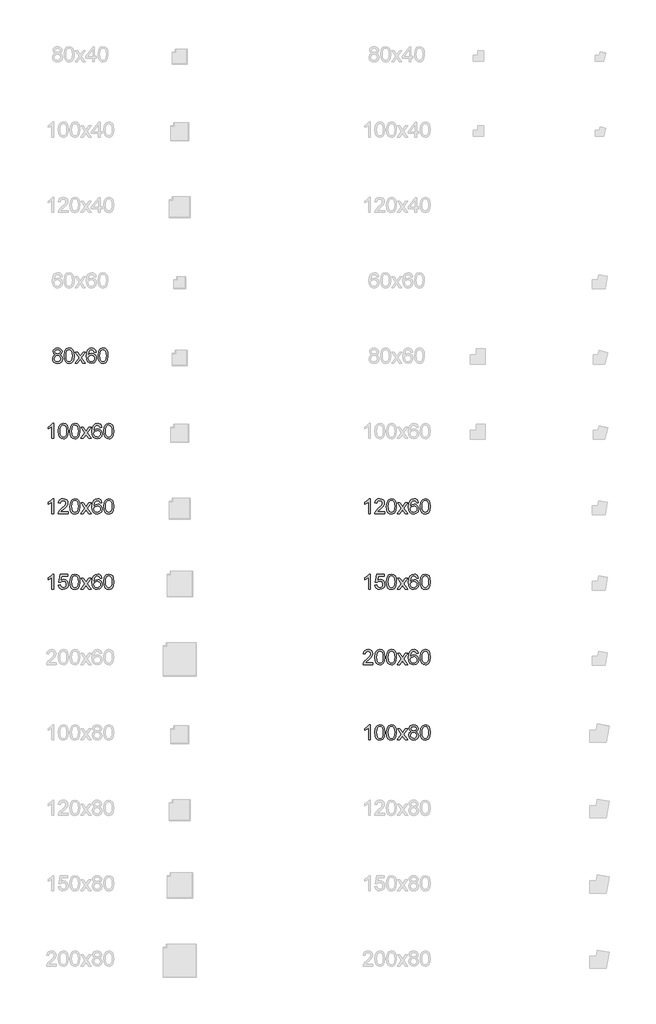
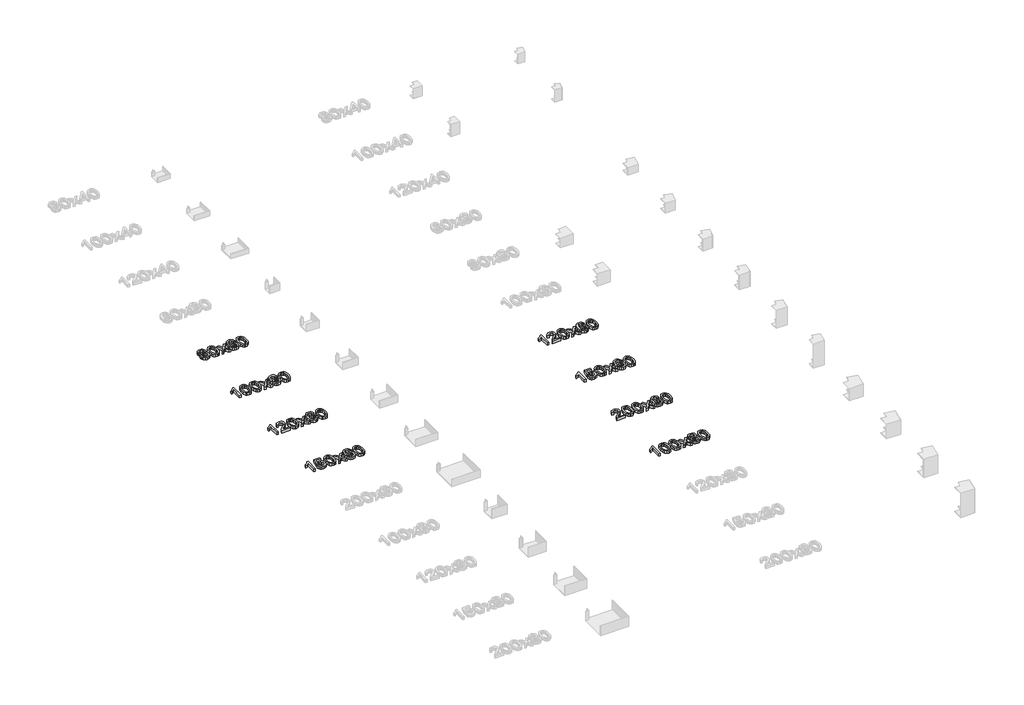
# One storey, part 14 of 28: 8 proxies.
"""IFC4 building model written with IfcOpenShell, lengths in millimetres."""

from ifc_helpers import new_model, si_unit, origin, origin_with_axes, place, context, project, spatial, polyline, outline, extrude, element, save

model = new_model("IFC4")

# Units and contexts
model_context = context("Model", 3, world=origin())
ifc_project = project(units=[si_unit("LENGTHUNIT", "METRE", prefix="MILLI")], contexts=[model_context])

# Site, building, storey
site = spatial("IfcSite", under=ifc_project)
building = spatial("IfcBuilding", under=site)
storey = spatial("IfcBuildingStorey", under=building, Name="Этаж 01", Elevation=0.0)

# Proxies
placement = place(None, origin())
element("IfcBuildingElementProxy", 1, Name="100 мм Arial", ObjectType="100 мм Arial", at=placement, inside=storey, context=model_context, shape_type="SweptSolid", body=[
    extrude(outline(polyline([(12977.1955345, -408.0058037), (12965.7544045, -400.2067054), (12962.0387963, -388.0665996), (12964.0621473, -378.2502817), (12970.1322002, -370.1384837), (12979.5683734, -364.6938302), (12991.6900851, -362.8789457), (13003.8853733, -364.7367497), (13013.4441738, -370.310162), (13019.6245913, -378.5507186), (13021.6847305, -388.4099561), (13018.0181733, -400.2434936), (13006.8958743, -408.0058037), (13020.2499907, -417.8527785), (13024.8239902, -434.1008999), (13022.5553845, -446.1061157), (13015.7495676, -456.0266668), (13005.2404053, -462.6853309), (12991.8617634, -464.9048856), (12978.4831215, -462.6761339), (12967.9739592, -455.9898786), (12961.1681423, -445.9742913), (12958.8995366, -433.7575434), (12963.6574771, -417.1292772), (12977.1955345, -408.0058037)]), holes=[polyline([(12974.5958351, -388.4344816), (12979.0472072, -398.2937191), (12992.0089162, -402.1196918), (13004.7131078, -398.3182445), (13009.1276917, -388.9985673), (13004.565955, -379.3477963), (12991.8617634, -375.4359844), (12979.1207836, -379.2619572), (12974.5958351, -388.4344816)]), polyline([(12971.4565754, -433.316085), (12973.5535028, -442.7706523), (12980.9724563, -449.8462493), (12991.9598653, -452.3478469), (13000.5069903, -451.0326687), (13006.9203997, -447.0871343), (13012.2669514, -433.7084925), (13006.7487215, -420.0723332), (13000.1881592, -416.0256312), (12991.5429323, -414.6767306), (12983.115369, -416.0072371), (12976.7663389, -419.9987568), (12971.4565754, -433.316085)])]), origin_with_axes(), (0.0, 0.0, 1.0), 20.0),
    extrude(outline(polyline([(13035.8113991, -413.9164411), (13039.5024818, -385.013179), (13050.4653652, -368.3481246), (13068.7736259, -362.8789457), (13083.4398547, -366.1163072), (13093.5688723, -375.4482472), (13099.4549843, -390.3106798), (13101.7358526, -413.9164411), (13098.0815581, -442.6970759), (13087.1554629, -459.3989185), (13078.9241032, -463.5283938), (13068.7736259, -464.9048856), (13055.7260778, -462.5136527), (13045.8177894, -455.3399538), (13038.3129967, -438.349937), (13035.8113991, -413.9164411)]), holes=[polyline([(13048.3684379, -413.8919156), (13049.8399658, -433.6441131), (13054.2545498, -445.0760461), (13060.8273748, -450.5298967), (13068.7736259, -452.3478469), (13076.719877, -450.5237653), (13083.2927019, -445.0515206), (13087.7072859, -433.6134563), (13089.1788139, -413.8919156), (13087.7563368, -394.5842423), (13083.4889057, -383.0634045), (13076.9283434, -377.3428394), (13068.6264731, -375.4359844), (13060.7660611, -377.1159789), (13054.4507535, -382.1559622), (13049.8890168, -394.3941699), (13048.3684379, -413.8919156)])]), origin_with_axes(), (0.0, 0.0, 1.0), 20.0),
    extrude(outline(polyline([(13108.014372, -463.3352558), (13134.8452322, -426.2527507), (13109.5840019, -389.562653), (13124.6916891, -389.562653), (13136.8808459, -407.2209888), (13142.5707541, -415.5596474), (13147.5003728, -408.7415677), (13161.3817868, -389.562653), (13176.489474, -389.562653), (13149.9529195, -426.2527507), (13175.5084554, -463.3352558), (13160.4007681, -463.3352558), (13145.0233007, -441.0416069), (13142.2028721, -436.9703795), (13123.1220593, -463.3352558), (13108.014372, -463.3352558)])), origin_with_axes(), (0.0, 0.0, 1.0), 20.0),
    extrude(outline(polyline([(13247.7114283, -389.562653), (13235.1543895, -391.1322829), (13230.3964491, -380.6599088), (13217.8148848, -375.4359844), (13206.4841194, -378.4771422), (13197.9124689, -389.8937468), (13194.3440135, -412.2732349), (13205.4172616, -402.2545819), (13219.13926, -398.9804321), (13230.7398056, -401.2183809), (13240.4764157, -407.9322273), (13247.0798976, -418.1900036), (13249.2810582, -431.0597421), (13245.1362543, -448.3869841), (13233.7319125, -460.6497172), (13217.2753246, -464.9048856), (13203.0290943, -462.084457), (13191.6830004, -453.6231711), (13184.2609812, -438.6871621), (13181.7869748, -416.4425641), (13184.533827, -391.4327198), (13192.7743837, -374.3323384), (13204.0254414, -365.7422938), (13218.5996998, -362.8789457), (13229.6177655, -364.6509106), (13238.440802, -369.9668054), (13244.6212196, -378.4096972), (13247.7114283, -389.562653)]), holes=[polyline([(13194.3440135, -430.8635384), (13197.2502813, -441.7405827), (13204.9758032, -449.6377828), (13216.2943059, -452.3478469), (13224.5808479, -450.9437639), (13231.0954249, -446.7315151), (13235.3168708, -440.1096392), (13236.7240194, -431.476675), (13235.3352649, -423.1901331), (13231.1690013, -416.8717598), (13224.5440597, -412.8710431), (13215.7792711, -411.5374709), (13200.5857447, -416.8717598), (13195.9044463, -423.0368489), (13194.3440135, -430.8635384)])]), origin_with_axes(), (0.0, 0.0, 1.0), 20.0),
    extrude(outline(polyline([(13260.2684671, -413.9164411), (13263.9595498, -385.013179), (13274.9224332, -368.3481246), (13293.2306938, -362.8789457), (13307.8969227, -366.1163072), (13318.0259403, -375.4482472), (13323.9120522, -390.3106798), (13326.1929206, -413.9164411), (13322.5386261, -442.6970759), (13311.6125309, -459.3989185), (13303.3811712, -463.5283938), (13293.2306938, -464.9048856), (13280.1831458, -462.5136527), (13270.2748573, -455.3399538), (13262.7700646, -438.349937), (13260.2684671, -413.9164411)]), holes=[polyline([(13272.8255058, -413.8919156), (13274.2970338, -433.6441131), (13278.7116178, -445.0760461), (13285.2844428, -450.5298967), (13293.2306938, -452.3478469), (13301.1769449, -450.5237653), (13307.7497699, -445.0515206), (13312.1643539, -433.6134563), (13313.6358818, -413.8919156), (13312.2134048, -394.5842423), (13307.9459737, -383.0634045), (13301.3854114, -377.3428394), (13293.0835411, -375.4359844), (13285.2231291, -377.1159789), (13278.9078215, -382.1559622), (13274.3460848, -394.3941699), (13272.8255058, -413.8919156)])]), origin_with_axes(), (0.0, 0.0, 1.0), 20.0),
])
element("IfcBuildingElementProxy", 2, Name="100 мм Arial", ObjectType="100 мм Arial", at=placement, inside=storey, context=model_context, shape_type="SweptSolid", body=[
    extrude(outline(polyline([(12967.5325008, -1463.3352558), (12954.975462, -1463.3352558), (12954.975462, -1385.0499672), (12943.0806108, -1393.5235158), (12929.8613845, -1399.8633489), (12929.8613845, -1387.9930232), (12948.267747, -1376.2453248), (12959.4390969, -1362.8789457), (12967.5325008, -1362.8789457), (12967.5325008, -1463.3352558)])), origin_with_axes(), (0.0, 0.0, 1.0), 20.0),
    extrude(outline(polyline([(13061.7102916, -1450.778217), (13061.7102916, -1463.3352558), (12995.785838, -1463.3352558), (12997.1347387, -1454.6777662), (13004.7621587, -1441.3481752), (13020.4829826, -1426.7923109), (13042.1634949, -1405.8720882), (13047.5836229, -1391.6473177), (13042.4700632, -1380.1326112), (13029.1159468, -1375.4359844), (13015.1977446, -1380.0222466), (13009.9125066, -1392.7019127), (12997.3554679, -1391.1322829), (13000.3996914, -1378.9860457), (13006.9817134, -1370.1139582), (13016.7581774, -1364.6876988), (13029.3857269, -1362.8789457), (13042.1052469, -1364.8900339), (13051.8633168, -1370.9232986), (13058.0713255, -1379.9364075), (13060.1406617, -1390.8870282), (13057.9088443, -1402.7941421), (13050.4898907, -1415.1059262), (13032.5004611, -1432.3105409), (13018.0549615, -1444.389333), (13012.3895787, -1450.778217), (13061.7102916, -1450.778217)])), origin_with_axes(), (0.0, 0.0, 1.0), 20.0),
    extrude(outline(polyline([(13074.2673303, -1413.9164411), (13077.958413, -1385.013179), (13088.9212965, -1368.3481246), (13107.2295571, -1362.8789457), (13121.895786, -1366.1163072), (13132.0248036, -1375.4482472), (13137.9109155, -1390.3106798), (13140.1917839, -1413.9164411), (13136.5374894, -1442.6970759), (13125.6113941, -1459.3989185), (13117.3800345, -1463.5283938), (13107.2295571, -1464.9048856), (13094.182009, -1462.5136527), (13084.2737206, -1455.3399538), (13076.7689279, -1438.349937), (13074.2673303, -1413.9164411)]), holes=[polyline([(13086.8243691, -1413.8919156), (13088.2958971, -1433.6441131), (13092.710481, -1445.0760461), (13099.283306, -1450.5298967), (13107.2295571, -1452.3478469), (13115.1758082, -1450.5237653), (13121.7486332, -1445.0515206), (13126.1632171, -1433.6134563), (13127.6347451, -1413.8919156), (13126.212268, -1394.5842423), (13121.9448369, -1383.0634045), (13115.3842746, -1377.3428394), (13107.0824043, -1375.4359844), (13099.2219923, -1377.1159789), (13092.9066847, -1382.1559622), (13088.344948, -1394.3941699), (13086.8243691, -1413.8919156)])]), origin_with_axes(), (0.0, 0.0, 1.0), 20.0),
    extrude(outline(polyline([(13146.4703032, -1463.3352558), (13173.3011634, -1426.2527507), (13148.0399331, -1389.562653), (13163.1476204, -1389.562653), (13175.3367771, -1407.2209888), (13181.0266853, -1415.5596474), (13185.9563041, -1408.7415677), (13199.837718, -1389.562653), (13214.9454053, -1389.562653), (13188.4088507, -1426.2527507), (13213.9643866, -1463.3352558), (13198.8566994, -1463.3352558), (13183.479232, -1441.0416069), (13180.6588033, -1436.9703795), (13161.5779905, -1463.3352558), (13146.4703032, -1463.3352558)])), origin_with_axes(), (0.0, 0.0, 1.0), 20.0),
    extrude(outline(polyline([(13286.1673595, -1389.562653), (13273.6103208, -1391.1322829), (13268.8523803, -1380.6599088), (13256.2708161, -1375.4359844), (13244.9400506, -1378.4771422), (13236.3684001, -1389.8937468), (13232.7999448, -1412.2732349), (13243.8731928, -1402.2545819), (13257.5951912, -1398.9804321), (13269.1957368, -1401.2183809), (13278.932347, -1407.9322273), (13285.5358288, -1418.1900036), (13287.7369894, -1431.0597421), (13283.5921856, -1448.3869841), (13272.1878437, -1460.6497172), (13255.7312558, -1464.9048856), (13241.4850255, -1462.084457), (13230.1389317, -1453.6231711), (13222.7169124, -1438.6871621), (13220.242906, -1416.4425641), (13222.9897582, -1391.4327198), (13231.2303149, -1374.3323384), (13242.4813726, -1365.7422938), (13257.055631, -1362.8789457), (13268.0736967, -1364.6509106), (13276.8967333, -1369.9668054), (13283.0771508, -1378.4096972), (13286.1673595, -1389.562653)]), holes=[polyline([(13232.7999448, -1430.8635384), (13235.7062125, -1441.7405827), (13243.4317344, -1449.6377828), (13254.7502372, -1452.3478469), (13263.0367791, -1450.9437639), (13269.5513561, -1446.7315151), (13273.772802, -1440.1096392), (13275.1799506, -1431.476675), (13273.7911961, -1423.1901331), (13269.6249325, -1416.8717598), (13262.9999909, -1412.8710431), (13254.2352024, -1411.5374709), (13239.041676, -1416.8717598), (13234.3603776, -1423.0368489), (13232.7999448, -1430.8635384)])]), origin_with_axes(), (0.0, 0.0, 1.0), 20.0),
    extrude(outline(polyline([(13298.7243983, -1413.9164411), (13302.415481, -1385.013179), (13313.3783645, -1368.3481246), (13331.6866251, -1362.8789457), (13346.352854, -1366.1163072), (13356.4818716, -1375.4482472), (13362.3679835, -1390.3106798), (13364.6488518, -1413.9164411), (13360.9945574, -1442.6970759), (13350.0684621, -1459.3989185), (13341.8371025, -1463.5283938), (13331.6866251, -1464.9048856), (13318.639077, -1462.5136527), (13308.7307886, -1455.3399538), (13301.2259959, -1438.349937), (13298.7243983, -1413.9164411)]), holes=[polyline([(13311.2814371, -1413.8919156), (13312.7529651, -1433.6441131), (13317.167549, -1445.0760461), (13323.740374, -1450.5298967), (13331.6866251, -1452.3478469), (13339.6328762, -1450.5237653), (13346.2057012, -1445.0515206), (13350.6202851, -1433.6134563), (13352.0918131, -1413.8919156), (13350.669336, -1394.5842423), (13346.4019049, -1383.0634045), (13339.8413426, -1377.3428394), (13331.5394723, -1375.4359844), (13323.6790603, -1377.1159789), (13317.3637527, -1382.1559622), (13312.802016, -1394.3941699), (13311.2814371, -1413.8919156)])]), origin_with_axes(), (0.0, 0.0, 1.0), 20.0),
])
element("IfcBuildingElementProxy", 3, Name="100 мм Arial", ObjectType="100 мм Arial", at=placement, inside=storey, context=model_context, shape_type="SweptSolid", body=[
    extrude(outline(polyline([(12967.5325008, -1963.3352558), (12954.975462, -1963.3352558), (12954.975462, -1885.0499672), (12943.0806108, -1893.5235158), (12929.8613845, -1899.8633489), (12929.8613845, -1887.9930232), (12948.267747, -1876.2453248), (12959.4390969, -1862.8789457), (12967.5325008, -1862.8789457), (12967.5325008, -1963.3352558)])), origin_with_axes(), (0.0, 0.0, 1.0), 20.0),
    extrude(outline(polyline([(12997.3554679, -1936.6515484), (13009.9125066, -1935.0819186), (13016.2400769, -1948.0191021), (13029.3612014, -1952.3478469), (13038.3620476, -1950.8425964), (13045.1065508, -1946.3268449), (13049.3187997, -1939.3217586), (13050.7228826, -1930.3485036), (13045.4621701, -1915.43702), (13038.8556226, -1911.3351358), (13029.5574052, -1909.967841), (13018.5332081, -1912.1506075), (13011.4821365, -1917.8159903), (12998.9250977, -1916.2463604), (13009.9125066, -1864.4485755), (13058.5710319, -1864.4485755), (13058.5710319, -1877.0056143), (13020.0660497, -1877.0056143), (13014.6949726, -1904.6703403), (13023.6651619, -1899.2256868), (13033.0645469, -1897.4108023), (13044.7969168, -1899.6610138), (13054.5365926, -1906.4116484), (13061.0940892, -1916.7000815), (13063.2799214, -1929.5636886), (13061.3117527, -1942.1207274), (13055.4072467, -1952.8628817), (13044.1010067, -1961.8943847), (13029.3121505, -1964.9048856), (13016.9789066, -1962.9704395), (13007.1533917, -1957.167101), (13000.4180855, -1948.1693206), (12997.3554679, -1936.6515484)])), origin_with_axes(), (0.0, 0.0, 1.0), 20.0),
    extrude(outline(polyline([(13074.2673303, -1913.9164411), (13077.958413, -1885.013179), (13088.9212965, -1868.3481246), (13107.2295571, -1862.8789457), (13121.895786, -1866.1163072), (13132.0248036, -1875.4482472), (13137.9109155, -1890.3106798), (13140.1917839, -1913.9164411), (13136.5374894, -1942.6970759), (13125.6113941, -1959.3989185), (13117.3800345, -1963.5283938), (13107.2295571, -1964.9048856), (13094.182009, -1962.5136527), (13084.2737206, -1955.3399538), (13076.7689279, -1938.349937), (13074.2673303, -1913.9164411)]), holes=[polyline([(13086.8243691, -1913.8919156), (13088.2958971, -1933.6441131), (13092.710481, -1945.0760461), (13099.283306, -1950.5298967), (13107.2295571, -1952.3478469), (13115.1758082, -1950.5237653), (13121.7486332, -1945.0515206), (13126.1632171, -1933.6134563), (13127.6347451, -1913.8919156), (13126.212268, -1894.5842423), (13121.9448369, -1883.0634045), (13115.3842746, -1877.3428394), (13107.0824043, -1875.4359844), (13099.2219923, -1877.1159789), (13092.9066847, -1882.1559622), (13088.344948, -1894.3941699), (13086.8243691, -1913.8919156)])]), origin_with_axes(), (0.0, 0.0, 1.0), 20.0),
    extrude(outline(polyline([(13146.4703032, -1963.3352558), (13173.3011634, -1926.2527507), (13148.0399331, -1889.562653), (13163.1476204, -1889.562653), (13175.3367771, -1907.2209888), (13181.0266853, -1915.5596474), (13185.9563041, -1908.7415677), (13199.837718, -1889.562653), (13214.9454053, -1889.562653), (13188.4088507, -1926.2527507), (13213.9643866, -1963.3352558), (13198.8566994, -1963.3352558), (13183.479232, -1941.0416069), (13180.6588033, -1936.9703795), (13161.5779905, -1963.3352558), (13146.4703032, -1963.3352558)])), origin_with_axes(), (0.0, 0.0, 1.0), 20.0),
    extrude(outline(polyline([(13286.1673595, -1889.562653), (13273.6103208, -1891.1322829), (13268.8523803, -1880.6599088), (13256.2708161, -1875.4359844), (13244.9400506, -1878.4771422), (13236.3684001, -1889.8937468), (13232.7999448, -1912.2732349), (13243.8731928, -1902.2545819), (13257.5951912, -1898.9804321), (13269.1957368, -1901.2183809), (13278.932347, -1907.9322273), (13285.5358288, -1918.1900036), (13287.7369894, -1931.0597421), (13283.5921856, -1948.3869841), (13272.1878437, -1960.6497172), (13255.7312558, -1964.9048856), (13241.4850255, -1962.084457), (13230.1389317, -1953.6231711), (13222.7169124, -1938.6871621), (13220.242906, -1916.4425641), (13222.9897582, -1891.4327198), (13231.2303149, -1874.3323384), (13242.4813726, -1865.7422938), (13257.055631, -1862.8789457), (13268.0736967, -1864.6509106), (13276.8967333, -1869.9668054), (13283.0771508, -1878.4096972), (13286.1673595, -1889.562653)]), holes=[polyline([(13232.7999448, -1930.8635384), (13235.7062125, -1941.7405827), (13243.4317344, -1949.6377828), (13254.7502372, -1952.3478469), (13263.0367791, -1950.9437639), (13269.5513561, -1946.7315151), (13273.772802, -1940.1096392), (13275.1799506, -1931.476675), (13273.7911961, -1923.1901331), (13269.6249325, -1916.8717598), (13262.9999909, -1912.8710431), (13254.2352024, -1911.5374709), (13239.041676, -1916.8717598), (13234.3603776, -1923.0368489), (13232.7999448, -1930.8635384)])]), origin_with_axes(), (0.0, 0.0, 1.0), 20.0),
    extrude(outline(polyline([(13298.7243983, -1913.9164411), (13302.415481, -1885.013179), (13313.3783645, -1868.3481246), (13331.6866251, -1862.8789457), (13346.352854, -1866.1163072), (13356.4818716, -1875.4482472), (13362.3679835, -1890.3106798), (13364.6488518, -1913.9164411), (13360.9945574, -1942.6970759), (13350.0684621, -1959.3989185), (13341.8371025, -1963.5283938), (13331.6866251, -1964.9048856), (13318.639077, -1962.5136527), (13308.7307886, -1955.3399538), (13301.2259959, -1938.349937), (13298.7243983, -1913.9164411)]), holes=[polyline([(13311.2814371, -1913.8919156), (13312.7529651, -1933.6441131), (13317.167549, -1945.0760461), (13323.740374, -1950.5298967), (13331.6866251, -1952.3478469), (13339.6328762, -1950.5237653), (13346.2057012, -1945.0515206), (13350.6202851, -1933.6134563), (13352.0918131, -1913.8919156), (13350.669336, -1894.5842423), (13346.4019049, -1883.0634045), (13339.8413426, -1877.3428394), (13331.5394723, -1875.4359844), (13323.6790603, -1877.1159789), (13317.3637527, -1882.1559622), (13312.802016, -1894.3941699), (13311.2814371, -1913.8919156)])]), origin_with_axes(), (0.0, 0.0, 1.0), 20.0),
])
element("IfcBuildingElementProxy", 4, Name="100 мм Arial", ObjectType="100 мм Arial", at=placement, inside=storey, context=model_context, shape_type="SweptSolid", body=[
    extrude(outline(polyline([(12967.5325008, -963.3352558), (12954.975462, -963.3352558), (12954.975462, -885.0499672), (12943.0806108, -893.5235158), (12929.8613845, -899.8633489), (12929.8613845, -887.9930232), (12948.267747, -876.2453248), (12959.4390969, -862.8789457), (12967.5325008, -862.8789457), (12967.5325008, -963.3352558)])), origin_with_axes(), (0.0, 0.0, 1.0), 20.0),
    extrude(outline(polyline([(12997.3554679, -913.9164411), (13001.0465505, -885.013179), (13012.009434, -868.3481246), (13030.3176946, -862.8789457), (13044.9839235, -866.1163072), (13055.1129411, -875.4482472), (13060.999053, -890.3106798), (13063.2799214, -913.9164411), (13059.6256269, -942.6970759), (13048.6995317, -959.3989185), (13040.468172, -963.5283938), (13030.3176946, -964.9048856), (13017.2701465, -962.5136527), (13007.3618581, -955.3399538), (12999.8570654, -938.349937), (12997.3554679, -913.9164411)]), holes=[polyline([(13009.9125066, -913.8919156), (13011.3840346, -933.6441131), (13015.7986186, -945.0760461), (13022.3714435, -950.5298967), (13030.3176946, -952.3478469), (13038.2639457, -950.5237653), (13044.8367707, -945.0515206), (13049.2513546, -933.6134563), (13050.7228826, -913.8919156), (13049.3004056, -894.5842423), (13045.0329744, -883.0634045), (13038.4724122, -877.3428394), (13030.1705418, -875.4359844), (13022.3101299, -877.1159789), (13015.9948223, -882.1559622), (13011.4330855, -894.3941699), (13009.9125066, -913.8919156)])]), origin_with_axes(), (0.0, 0.0, 1.0), 20.0),
    extrude(outline(polyline([(13074.2673303, -913.9164411), (13077.958413, -885.013179), (13088.9212965, -868.3481246), (13107.2295571, -862.8789457), (13121.895786, -866.1163072), (13132.0248036, -875.4482472), (13137.9109155, -890.3106798), (13140.1917839, -913.9164411), (13136.5374894, -942.6970759), (13125.6113941, -959.3989185), (13117.3800345, -963.5283938), (13107.2295571, -964.9048856), (13094.182009, -962.5136527), (13084.2737206, -955.3399538), (13076.7689279, -938.349937), (13074.2673303, -913.9164411)]), holes=[polyline([(13086.8243691, -913.8919156), (13088.2958971, -933.6441131), (13092.710481, -945.0760461), (13099.283306, -950.5298967), (13107.2295571, -952.3478469), (13115.1758082, -950.5237653), (13121.7486332, -945.0515206), (13126.1632171, -933.6134563), (13127.6347451, -913.8919156), (13126.212268, -894.5842423), (13121.9448369, -883.0634045), (13115.3842746, -877.3428394), (13107.0824043, -875.4359844), (13099.2219923, -877.1159789), (13092.9066847, -882.1559622), (13088.344948, -894.3941699), (13086.8243691, -913.8919156)])]), origin_with_axes(), (0.0, 0.0, 1.0), 20.0),
    extrude(outline(polyline([(13146.4703032, -963.3352558), (13173.3011634, -926.2527507), (13148.0399331, -889.562653), (13163.1476204, -889.562653), (13175.3367771, -907.2209888), (13181.0266853, -915.5596474), (13185.9563041, -908.7415677), (13199.837718, -889.562653), (13214.9454053, -889.562653), (13188.4088507, -926.2527507), (13213.9643866, -963.3352558), (13198.8566994, -963.3352558), (13183.479232, -941.0416069), (13180.6588033, -936.9703795), (13161.5779905, -963.3352558), (13146.4703032, -963.3352558)])), origin_with_axes(), (0.0, 0.0, 1.0), 20.0),
    extrude(outline(polyline([(13286.1673595, -889.562653), (13273.6103208, -891.1322829), (13268.8523803, -880.6599088), (13256.2708161, -875.4359844), (13244.9400506, -878.4771422), (13236.3684001, -889.8937468), (13232.7999448, -912.2732349), (13243.8731928, -902.2545819), (13257.5951912, -898.9804321), (13269.1957368, -901.2183809), (13278.932347, -907.9322273), (13285.5358288, -918.1900036), (13287.7369894, -931.0597421), (13283.5921856, -948.3869841), (13272.1878437, -960.6497172), (13255.7312558, -964.9048856), (13241.4850255, -962.084457), (13230.1389317, -953.6231711), (13222.7169124, -938.6871621), (13220.242906, -916.4425641), (13222.9897582, -891.4327198), (13231.2303149, -874.3323384), (13242.4813726, -865.7422938), (13257.055631, -862.8789457), (13268.0736967, -864.6509106), (13276.8967333, -869.9668054), (13283.0771508, -878.4096972), (13286.1673595, -889.562653)]), holes=[polyline([(13232.7999448, -930.8635384), (13235.7062125, -941.7405827), (13243.4317344, -949.6377828), (13254.7502372, -952.3478469), (13263.0367791, -950.9437639), (13269.5513561, -946.7315151), (13273.772802, -940.1096392), (13275.1799506, -931.476675), (13273.7911961, -923.1901331), (13269.6249325, -916.8717598), (13262.9999909, -912.8710431), (13254.2352024, -911.5374709), (13239.041676, -916.8717598), (13234.3603776, -923.0368489), (13232.7999448, -930.8635384)])]), origin_with_axes(), (0.0, 0.0, 1.0), 20.0),
    extrude(outline(polyline([(13298.7243983, -913.9164411), (13302.415481, -885.013179), (13313.3783645, -868.3481246), (13331.6866251, -862.8789457), (13346.352854, -866.1163072), (13356.4818716, -875.4482472), (13362.3679835, -890.3106798), (13364.6488518, -913.9164411), (13360.9945574, -942.6970759), (13350.0684621, -959.3989185), (13341.8371025, -963.5283938), (13331.6866251, -964.9048856), (13318.639077, -962.5136527), (13308.7307886, -955.3399538), (13301.2259959, -938.349937), (13298.7243983, -913.9164411)]), holes=[polyline([(13311.2814371, -913.8919156), (13312.7529651, -933.6441131), (13317.167549, -945.0760461), (13323.740374, -950.5298967), (13331.6866251, -952.3478469), (13339.6328762, -950.5237653), (13346.2057012, -945.0515206), (13350.6202851, -933.6134563), (13352.0918131, -913.8919156), (13350.669336, -894.5842423), (13346.4019049, -883.0634045), (13339.8413426, -877.3428394), (13331.5394723, -875.4359844), (13323.6790603, -877.1159789), (13317.3637527, -882.1559622), (13312.802016, -894.3941699), (13311.2814371, -913.8919156)])]), origin_with_axes(), (0.0, 0.0, 1.0), 20.0),
])
element("IfcBuildingElementProxy", 5, Name="100 мм Arial", ObjectType="100 мм Arial", at=placement, inside=storey, context=model_context, shape_type="SweptSolid", body=[
    extrude(outline(polyline([(15067.5325008, -1463.3352558), (15054.975462, -1463.3352558), (15054.975462, -1385.0499672), (15043.0806108, -1393.5235158), (15029.8613845, -1399.8633489), (15029.8613845, -1387.9930232), (15048.267747, -1376.2453248), (15059.4390969, -1362.8789457), (15067.5325008, -1362.8789457), (15067.5325008, -1463.3352558)])), origin_with_axes(), (0.0, 0.0, 1.0), 20.0),
    extrude(outline(polyline([(15161.7102916, -1450.778217), (15161.7102916, -1463.3352558), (15095.785838, -1463.3352558), (15097.1347387, -1454.6777662), (15104.7621587, -1441.3481752), (15120.4829826, -1426.7923109), (15142.1634949, -1405.8720882), (15147.5836229, -1391.6473177), (15142.4700632, -1380.1326112), (15129.1159468, -1375.4359844), (15115.1977446, -1380.0222466), (15109.9125066, -1392.7019127), (15097.3554679, -1391.1322829), (15100.3996914, -1378.9860457), (15106.9817134, -1370.1139582), (15116.7581774, -1364.6876988), (15129.3857269, -1362.8789457), (15142.1052469, -1364.8900339), (15151.8633168, -1370.9232986), (15158.0713255, -1379.9364075), (15160.1406617, -1390.8870282), (15157.9088443, -1402.7941421), (15150.4898907, -1415.1059262), (15132.5004611, -1432.3105409), (15118.0549615, -1444.389333), (15112.3895787, -1450.778217), (15161.7102916, -1450.778217)])), origin_with_axes(), (0.0, 0.0, 1.0), 20.0),
    extrude(outline(polyline([(15174.2673303, -1413.9164411), (15177.958413, -1385.013179), (15188.9212965, -1368.3481246), (15207.2295571, -1362.8789457), (15221.895786, -1366.1163072), (15232.0248036, -1375.4482472), (15237.9109155, -1390.3106798), (15240.1917839, -1413.9164411), (15236.5374894, -1442.6970759), (15225.6113941, -1459.3989185), (15217.3800345, -1463.5283938), (15207.2295571, -1464.9048856), (15194.182009, -1462.5136527), (15184.2737206, -1455.3399538), (15176.7689279, -1438.349937), (15174.2673303, -1413.9164411)]), holes=[polyline([(15186.8243691, -1413.8919156), (15188.2958971, -1433.6441131), (15192.710481, -1445.0760461), (15199.283306, -1450.5298967), (15207.2295571, -1452.3478469), (15215.1758082, -1450.5237653), (15221.7486332, -1445.0515206), (15226.1632171, -1433.6134563), (15227.6347451, -1413.8919156), (15226.212268, -1394.5842423), (15221.9448369, -1383.0634045), (15215.3842746, -1377.3428394), (15207.0824043, -1375.4359844), (15199.2219923, -1377.1159789), (15192.9066847, -1382.1559622), (15188.344948, -1394.3941699), (15186.8243691, -1413.8919156)])]), origin_with_axes(), (0.0, 0.0, 1.0), 20.0),
    extrude(outline(polyline([(15246.4703032, -1463.3352558), (15273.3011634, -1426.2527507), (15248.0399331, -1389.562653), (15263.1476204, -1389.562653), (15275.3367771, -1407.2209888), (15281.0266853, -1415.5596474), (15285.9563041, -1408.7415677), (15299.837718, -1389.562653), (15314.9454053, -1389.562653), (15288.4088507, -1426.2527507), (15313.9643866, -1463.3352558), (15298.8566994, -1463.3352558), (15283.479232, -1441.0416069), (15280.6588033, -1436.9703795), (15261.5779905, -1463.3352558), (15246.4703032, -1463.3352558)])), origin_with_axes(), (0.0, 0.0, 1.0), 20.0),
    extrude(outline(polyline([(15386.1673595, -1389.562653), (15373.6103208, -1391.1322829), (15368.8523803, -1380.6599088), (15356.2708161, -1375.4359844), (15344.9400506, -1378.4771422), (15336.3684001, -1389.8937468), (15332.7999448, -1412.2732349), (15343.8731928, -1402.2545819), (15357.5951912, -1398.9804321), (15369.1957368, -1401.2183809), (15378.932347, -1407.9322273), (15385.5358288, -1418.1900036), (15387.7369894, -1431.0597421), (15383.5921856, -1448.3869841), (15372.1878437, -1460.6497172), (15355.7312558, -1464.9048856), (15341.4850255, -1462.084457), (15330.1389317, -1453.6231711), (15322.7169124, -1438.6871621), (15320.242906, -1416.4425641), (15322.9897582, -1391.4327198), (15331.2303149, -1374.3323384), (15342.4813726, -1365.7422938), (15357.055631, -1362.8789457), (15368.0736967, -1364.6509106), (15376.8967333, -1369.9668054), (15383.0771508, -1378.4096972), (15386.1673595, -1389.562653)]), holes=[polyline([(15332.7999448, -1430.8635384), (15335.7062125, -1441.7405827), (15343.4317344, -1449.6377828), (15354.7502372, -1452.3478469), (15363.0367791, -1450.9437639), (15369.5513561, -1446.7315151), (15373.772802, -1440.1096392), (15375.1799506, -1431.476675), (15373.7911961, -1423.1901331), (15369.6249325, -1416.8717598), (15362.9999909, -1412.8710431), (15354.2352024, -1411.5374709), (15339.041676, -1416.8717598), (15334.3603776, -1423.0368489), (15332.7999448, -1430.8635384)])]), origin_with_axes(), (0.0, 0.0, 1.0), 20.0),
    extrude(outline(polyline([(15398.7243983, -1413.9164411), (15402.415481, -1385.013179), (15413.3783645, -1368.3481246), (15431.6866251, -1362.8789457), (15446.352854, -1366.1163072), (15456.4818716, -1375.4482472), (15462.3679835, -1390.3106798), (15464.6488518, -1413.9164411), (15460.9945574, -1442.6970759), (15450.0684621, -1459.3989185), (15441.8371025, -1463.5283938), (15431.6866251, -1464.9048856), (15418.639077, -1462.5136527), (15408.7307886, -1455.3399538), (15401.2259959, -1438.349937), (15398.7243983, -1413.9164411)]), holes=[polyline([(15411.2814371, -1413.8919156), (15412.7529651, -1433.6441131), (15417.167549, -1445.0760461), (15423.740374, -1450.5298967), (15431.6866251, -1452.3478469), (15439.6328762, -1450.5237653), (15446.2057012, -1445.0515206), (15450.6202851, -1433.6134563), (15452.0918131, -1413.8919156), (15450.669336, -1394.5842423), (15446.4019049, -1383.0634045), (15439.8413426, -1377.3428394), (15431.5394723, -1375.4359844), (15423.6790603, -1377.1159789), (15417.3637527, -1382.1559622), (15412.802016, -1394.3941699), (15411.2814371, -1413.8919156)])]), origin_with_axes(), (0.0, 0.0, 1.0), 20.0),
])
element("IfcBuildingElementProxy", 6, Name="100 мм Arial", ObjectType="100 мм Arial", at=placement, inside=storey, context=model_context, shape_type="SweptSolid", body=[
    extrude(outline(polyline([(15067.5325008, -1963.3352558), (15054.975462, -1963.3352558), (15054.975462, -1885.0499672), (15043.0806108, -1893.5235158), (15029.8613845, -1899.8633489), (15029.8613845, -1887.9930232), (15048.267747, -1876.2453248), (15059.4390969, -1862.8789457), (15067.5325008, -1862.8789457), (15067.5325008, -1963.3352558)])), origin_with_axes(), (0.0, 0.0, 1.0), 20.0),
    extrude(outline(polyline([(15097.3554679, -1936.6515484), (15109.9125066, -1935.0819186), (15116.2400769, -1948.0191021), (15129.3612014, -1952.3478469), (15138.3620476, -1950.8425964), (15145.1065508, -1946.3268449), (15149.3187997, -1939.3217586), (15150.7228826, -1930.3485036), (15145.4621701, -1915.43702), (15138.8556226, -1911.3351358), (15129.5574052, -1909.967841), (15118.5332081, -1912.1506075), (15111.4821365, -1917.8159903), (15098.9250977, -1916.2463604), (15109.9125066, -1864.4485755), (15158.5710319, -1864.4485755), (15158.5710319, -1877.0056143), (15120.0660497, -1877.0056143), (15114.6949726, -1904.6703403), (15123.6651619, -1899.2256868), (15133.0645469, -1897.4108023), (15144.7969168, -1899.6610138), (15154.5365926, -1906.4116484), (15161.0940892, -1916.7000815), (15163.2799214, -1929.5636886), (15161.3117527, -1942.1207274), (15155.4072467, -1952.8628817), (15144.1010067, -1961.8943847), (15129.3121505, -1964.9048856), (15116.9789066, -1962.9704395), (15107.1533917, -1957.167101), (15100.4180855, -1948.1693206), (15097.3554679, -1936.6515484)])), origin_with_axes(), (0.0, 0.0, 1.0), 20.0),
    extrude(outline(polyline([(15174.2673303, -1913.9164411), (15177.958413, -1885.013179), (15188.9212965, -1868.3481246), (15207.2295571, -1862.8789457), (15221.895786, -1866.1163072), (15232.0248036, -1875.4482472), (15237.9109155, -1890.3106798), (15240.1917839, -1913.9164411), (15236.5374894, -1942.6970759), (15225.6113941, -1959.3989185), (15217.3800345, -1963.5283938), (15207.2295571, -1964.9048856), (15194.182009, -1962.5136527), (15184.2737206, -1955.3399538), (15176.7689279, -1938.349937), (15174.2673303, -1913.9164411)]), holes=[polyline([(15186.8243691, -1913.8919156), (15188.2958971, -1933.6441131), (15192.710481, -1945.0760461), (15199.283306, -1950.5298967), (15207.2295571, -1952.3478469), (15215.1758082, -1950.5237653), (15221.7486332, -1945.0515206), (15226.1632171, -1933.6134563), (15227.6347451, -1913.8919156), (15226.212268, -1894.5842423), (15221.9448369, -1883.0634045), (15215.3842746, -1877.3428394), (15207.0824043, -1875.4359844), (15199.2219923, -1877.1159789), (15192.9066847, -1882.1559622), (15188.344948, -1894.3941699), (15186.8243691, -1913.8919156)])]), origin_with_axes(), (0.0, 0.0, 1.0), 20.0),
    extrude(outline(polyline([(15246.4703032, -1963.3352558), (15273.3011634, -1926.2527507), (15248.0399331, -1889.562653), (15263.1476204, -1889.562653), (15275.3367771, -1907.2209888), (15281.0266853, -1915.5596474), (15285.9563041, -1908.7415677), (15299.837718, -1889.562653), (15314.9454053, -1889.562653), (15288.4088507, -1926.2527507), (15313.9643866, -1963.3352558), (15298.8566994, -1963.3352558), (15283.479232, -1941.0416069), (15280.6588033, -1936.9703795), (15261.5779905, -1963.3352558), (15246.4703032, -1963.3352558)])), origin_with_axes(), (0.0, 0.0, 1.0), 20.0),
    extrude(outline(polyline([(15386.1673595, -1889.562653), (15373.6103208, -1891.1322829), (15368.8523803, -1880.6599088), (15356.2708161, -1875.4359844), (15344.9400506, -1878.4771422), (15336.3684001, -1889.8937468), (15332.7999448, -1912.2732349), (15343.8731928, -1902.2545819), (15357.5951912, -1898.9804321), (15369.1957368, -1901.2183809), (15378.932347, -1907.9322273), (15385.5358288, -1918.1900036), (15387.7369894, -1931.0597421), (15383.5921856, -1948.3869841), (15372.1878437, -1960.6497172), (15355.7312558, -1964.9048856), (15341.4850255, -1962.084457), (15330.1389317, -1953.6231711), (15322.7169124, -1938.6871621), (15320.242906, -1916.4425641), (15322.9897582, -1891.4327198), (15331.2303149, -1874.3323384), (15342.4813726, -1865.7422938), (15357.055631, -1862.8789457), (15368.0736967, -1864.6509106), (15376.8967333, -1869.9668054), (15383.0771508, -1878.4096972), (15386.1673595, -1889.562653)]), holes=[polyline([(15332.7999448, -1930.8635384), (15335.7062125, -1941.7405827), (15343.4317344, -1949.6377828), (15354.7502372, -1952.3478469), (15363.0367791, -1950.9437639), (15369.5513561, -1946.7315151), (15373.772802, -1940.1096392), (15375.1799506, -1931.476675), (15373.7911961, -1923.1901331), (15369.6249325, -1916.8717598), (15362.9999909, -1912.8710431), (15354.2352024, -1911.5374709), (15339.041676, -1916.8717598), (15334.3603776, -1923.0368489), (15332.7999448, -1930.8635384)])]), origin_with_axes(), (0.0, 0.0, 1.0), 20.0),
    extrude(outline(polyline([(15398.7243983, -1913.9164411), (15402.415481, -1885.013179), (15413.3783645, -1868.3481246), (15431.6866251, -1862.8789457), (15446.352854, -1866.1163072), (15456.4818716, -1875.4482472), (15462.3679835, -1890.3106798), (15464.6488518, -1913.9164411), (15460.9945574, -1942.6970759), (15450.0684621, -1959.3989185), (15441.8371025, -1963.5283938), (15431.6866251, -1964.9048856), (15418.639077, -1962.5136527), (15408.7307886, -1955.3399538), (15401.2259959, -1938.349937), (15398.7243983, -1913.9164411)]), holes=[polyline([(15411.2814371, -1913.8919156), (15412.7529651, -1933.6441131), (15417.167549, -1945.0760461), (15423.740374, -1950.5298967), (15431.6866251, -1952.3478469), (15439.6328762, -1950.5237653), (15446.2057012, -1945.0515206), (15450.6202851, -1933.6134563), (15452.0918131, -1913.8919156), (15450.669336, -1894.5842423), (15446.4019049, -1883.0634045), (15439.8413426, -1877.3428394), (15431.5394723, -1875.4359844), (15423.6790603, -1877.1159789), (15417.3637527, -1882.1559622), (15412.802016, -1894.3941699), (15411.2814371, -1913.8919156)])]), origin_with_axes(), (0.0, 0.0, 1.0), 20.0),
])
element("IfcBuildingElementProxy", 7, Name="100 мм Arial", ObjectType="100 мм Arial", at=placement, inside=storey, context=model_context, shape_type="SweptSolid", body=[
    extrude(outline(polyline([(15084.7984291, -2450.778217), (15084.7984291, -2463.3352558), (15018.8739756, -2463.3352558), (15020.2228762, -2454.6777662), (15027.8502962, -2441.3481752), (15043.5711202, -2426.7923109), (15065.2516324, -2405.8720882), (15070.6717605, -2391.6473177), (15065.5582007, -2380.1326112), (15052.2040843, -2375.4359844), (15038.2858822, -2380.0222466), (15033.0006442, -2392.7019127), (15020.4436054, -2391.1322829), (15023.4878289, -2378.9860457), (15030.0698509, -2370.1139582), (15039.846315, -2364.6876988), (15052.4738644, -2362.8789457), (15065.1933844, -2364.8900339), (15074.9514544, -2370.9232986), (15081.159463, -2379.9364075), (15083.2287992, -2390.8870282), (15080.9969818, -2402.7941421), (15073.5780282, -2415.1059262), (15055.5885987, -2432.3105409), (15041.143099, -2444.389333), (15035.4777163, -2450.778217), (15084.7984291, -2450.778217)])), origin_with_axes(), (0.0, 0.0, 1.0), 20.0),
    extrude(outline(polyline([(15097.3554679, -2413.9164411), (15101.0465505, -2385.013179), (15112.009434, -2368.3481246), (15130.3176946, -2362.8789457), (15144.9839235, -2366.1163072), (15155.1129411, -2375.4482472), (15160.999053, -2390.3106798), (15163.2799214, -2413.9164411), (15159.6256269, -2442.6970759), (15148.6995317, -2459.3989185), (15140.468172, -2463.5283938), (15130.3176946, -2464.9048856), (15117.2701465, -2462.5136527), (15107.3618581, -2455.3399538), (15099.8570654, -2438.349937), (15097.3554679, -2413.9164411)]), holes=[polyline([(15109.9125066, -2413.8919156), (15111.3840346, -2433.6441131), (15115.7986186, -2445.0760461), (15122.3714435, -2450.5298967), (15130.3176946, -2452.3478469), (15138.2639457, -2450.5237653), (15144.8367707, -2445.0515206), (15149.2513546, -2433.6134563), (15150.7228826, -2413.8919156), (15149.3004056, -2394.5842423), (15145.0329744, -2383.0634045), (15138.4724122, -2377.3428394), (15130.1705418, -2375.4359844), (15122.3101299, -2377.1159789), (15115.9948223, -2382.1559622), (15111.4330855, -2394.3941699), (15109.9125066, -2413.8919156)])]), origin_with_axes(), (0.0, 0.0, 1.0), 20.0),
    extrude(outline(polyline([(15174.2673303, -2413.9164411), (15177.958413, -2385.013179), (15188.9212965, -2368.3481246), (15207.2295571, -2362.8789457), (15221.895786, -2366.1163072), (15232.0248036, -2375.4482472), (15237.9109155, -2390.3106798), (15240.1917839, -2413.9164411), (15236.5374894, -2442.6970759), (15225.6113941, -2459.3989185), (15217.3800345, -2463.5283938), (15207.2295571, -2464.9048856), (15194.182009, -2462.5136527), (15184.2737206, -2455.3399538), (15176.7689279, -2438.349937), (15174.2673303, -2413.9164411)]), holes=[polyline([(15186.8243691, -2413.8919156), (15188.2958971, -2433.6441131), (15192.710481, -2445.0760461), (15199.283306, -2450.5298967), (15207.2295571, -2452.3478469), (15215.1758082, -2450.5237653), (15221.7486332, -2445.0515206), (15226.1632171, -2433.6134563), (15227.6347451, -2413.8919156), (15226.212268, -2394.5842423), (15221.9448369, -2383.0634045), (15215.3842746, -2377.3428394), (15207.0824043, -2375.4359844), (15199.2219923, -2377.1159789), (15192.9066847, -2382.1559622), (15188.344948, -2394.3941699), (15186.8243691, -2413.8919156)])]), origin_with_axes(), (0.0, 0.0, 1.0), 20.0),
    extrude(outline(polyline([(15246.4703032, -2463.3352558), (15273.3011634, -2426.2527507), (15248.0399331, -2389.562653), (15263.1476204, -2389.562653), (15275.3367771, -2407.2209888), (15281.0266853, -2415.5596474), (15285.9563041, -2408.7415677), (15299.837718, -2389.562653), (15314.9454053, -2389.562653), (15288.4088507, -2426.2527507), (15313.9643866, -2463.3352558), (15298.8566994, -2463.3352558), (15283.479232, -2441.0416069), (15280.6588033, -2436.9703795), (15261.5779905, -2463.3352558), (15246.4703032, -2463.3352558)])), origin_with_axes(), (0.0, 0.0, 1.0), 20.0),
    extrude(outline(polyline([(15386.1673595, -2389.562653), (15373.6103208, -2391.1322829), (15368.8523803, -2380.6599088), (15356.2708161, -2375.4359844), (15344.9400506, -2378.4771422), (15336.3684001, -2389.8937468), (15332.7999448, -2412.2732349), (15343.8731928, -2402.2545819), (15357.5951912, -2398.9804321), (15369.1957368, -2401.2183809), (15378.932347, -2407.9322273), (15385.5358288, -2418.1900036), (15387.7369894, -2431.0597421), (15383.5921856, -2448.3869841), (15372.1878437, -2460.6497172), (15355.7312558, -2464.9048856), (15341.4850255, -2462.084457), (15330.1389317, -2453.6231711), (15322.7169124, -2438.6871621), (15320.242906, -2416.4425641), (15322.9897582, -2391.4327198), (15331.2303149, -2374.3323384), (15342.4813726, -2365.7422938), (15357.055631, -2362.8789457), (15368.0736967, -2364.6509106), (15376.8967333, -2369.9668054), (15383.0771508, -2378.4096972), (15386.1673595, -2389.562653)]), holes=[polyline([(15332.7999448, -2430.8635384), (15335.7062125, -2441.7405827), (15343.4317344, -2449.6377828), (15354.7502372, -2452.3478469), (15363.0367791, -2450.9437639), (15369.5513561, -2446.7315151), (15373.772802, -2440.1096392), (15375.1799506, -2431.476675), (15373.7911961, -2423.1901331), (15369.6249325, -2416.8717598), (15362.9999909, -2412.8710431), (15354.2352024, -2411.5374709), (15339.041676, -2416.8717598), (15334.3603776, -2423.0368489), (15332.7999448, -2430.8635384)])]), origin_with_axes(), (0.0, 0.0, 1.0), 20.0),
    extrude(outline(polyline([(15398.7243983, -2413.9164411), (15402.415481, -2385.013179), (15413.3783645, -2368.3481246), (15431.6866251, -2362.8789457), (15446.352854, -2366.1163072), (15456.4818716, -2375.4482472), (15462.3679835, -2390.3106798), (15464.6488518, -2413.9164411), (15460.9945574, -2442.6970759), (15450.0684621, -2459.3989185), (15441.8371025, -2463.5283938), (15431.6866251, -2464.9048856), (15418.639077, -2462.5136527), (15408.7307886, -2455.3399538), (15401.2259959, -2438.349937), (15398.7243983, -2413.9164411)]), holes=[polyline([(15411.2814371, -2413.8919156), (15412.7529651, -2433.6441131), (15417.167549, -2445.0760461), (15423.740374, -2450.5298967), (15431.6866251, -2452.3478469), (15439.6328762, -2450.5237653), (15446.2057012, -2445.0515206), (15450.6202851, -2433.6134563), (15452.0918131, -2413.8919156), (15450.669336, -2394.5842423), (15446.4019049, -2383.0634045), (15439.8413426, -2377.3428394), (15431.5394723, -2375.4359844), (15423.6790603, -2377.1159789), (15417.3637527, -2382.1559622), (15412.802016, -2394.3941699), (15411.2814371, -2413.8919156)])]), origin_with_axes(), (0.0, 0.0, 1.0), 20.0),
])
element("IfcBuildingElementProxy", 8, Name="100 мм Arial", ObjectType="100 мм Arial", at=placement, inside=storey, context=model_context, shape_type="SweptSolid", body=[
    extrude(outline(polyline([(15067.5325008, -2963.3352558), (15054.975462, -2963.3352558), (15054.975462, -2885.0499672), (15043.0806108, -2893.5235158), (15029.8613845, -2899.8633489), (15029.8613845, -2887.9930232), (15048.267747, -2876.2453248), (15059.4390969, -2862.8789457), (15067.5325008, -2862.8789457), (15067.5325008, -2963.3352558)])), origin_with_axes(), (0.0, 0.0, 1.0), 20.0),
    extrude(outline(polyline([(15097.3554679, -2913.9164411), (15101.0465505, -2885.013179), (15112.009434, -2868.3481246), (15130.3176946, -2862.8789457), (15144.9839235, -2866.1163072), (15155.1129411, -2875.4482472), (15160.999053, -2890.3106798), (15163.2799214, -2913.9164411), (15159.6256269, -2942.6970759), (15148.6995317, -2959.3989185), (15140.468172, -2963.5283938), (15130.3176946, -2964.9048856), (15117.2701465, -2962.5136527), (15107.3618581, -2955.3399538), (15099.8570654, -2938.349937), (15097.3554679, -2913.9164411)]), holes=[polyline([(15109.9125066, -2913.8919156), (15111.3840346, -2933.6441131), (15115.7986186, -2945.0760461), (15122.3714435, -2950.5298967), (15130.3176946, -2952.3478469), (15138.2639457, -2950.5237653), (15144.8367707, -2945.0515206), (15149.2513546, -2933.6134563), (15150.7228826, -2913.8919156), (15149.3004056, -2894.5842423), (15145.0329744, -2883.0634045), (15138.4724122, -2877.3428394), (15130.1705418, -2875.4359844), (15122.3101299, -2877.1159789), (15115.9948223, -2882.1559622), (15111.4330855, -2894.3941699), (15109.9125066, -2913.8919156)])]), origin_with_axes(), (0.0, 0.0, 1.0), 20.0),
    extrude(outline(polyline([(15174.2673303, -2913.9164411), (15177.958413, -2885.013179), (15188.9212965, -2868.3481246), (15207.2295571, -2862.8789457), (15221.895786, -2866.1163072), (15232.0248036, -2875.4482472), (15237.9109155, -2890.3106798), (15240.1917839, -2913.9164411), (15236.5374894, -2942.6970759), (15225.6113941, -2959.3989185), (15217.3800345, -2963.5283938), (15207.2295571, -2964.9048856), (15194.182009, -2962.5136527), (15184.2737206, -2955.3399538), (15176.7689279, -2938.349937), (15174.2673303, -2913.9164411)]), holes=[polyline([(15186.8243691, -2913.8919156), (15188.2958971, -2933.6441131), (15192.710481, -2945.0760461), (15199.283306, -2950.5298967), (15207.2295571, -2952.3478469), (15215.1758082, -2950.5237653), (15221.7486332, -2945.0515206), (15226.1632171, -2933.6134563), (15227.6347451, -2913.8919156), (15226.212268, -2894.5842423), (15221.9448369, -2883.0634045), (15215.3842746, -2877.3428394), (15207.0824043, -2875.4359844), (15199.2219923, -2877.1159789), (15192.9066847, -2882.1559622), (15188.344948, -2894.3941699), (15186.8243691, -2913.8919156)])]), origin_with_axes(), (0.0, 0.0, 1.0), 20.0),
    extrude(outline(polyline([(15246.4703032, -2963.3352558), (15273.3011634, -2926.2527507), (15248.0399331, -2889.562653), (15263.1476204, -2889.562653), (15275.3367771, -2907.2209888), (15281.0266853, -2915.5596474), (15285.9563041, -2908.7415677), (15299.837718, -2889.562653), (15314.9454053, -2889.562653), (15288.4088507, -2926.2527507), (15313.9643866, -2963.3352558), (15298.8566994, -2963.3352558), (15283.479232, -2941.0416069), (15280.6588033, -2936.9703795), (15261.5779905, -2963.3352558), (15246.4703032, -2963.3352558)])), origin_with_axes(), (0.0, 0.0, 1.0), 20.0),
    extrude(outline(polyline([(15340.1085337, -2908.0058037), (15328.6674037, -2900.2067054), (15324.9517955, -2888.0665996), (15326.9751465, -2878.2502817), (15333.0451994, -2870.1384837), (15342.4813726, -2864.6938302), (15354.6030844, -2862.8789457), (15366.7983725, -2864.7367497), (15376.357173, -2870.310162), (15382.5375905, -2878.5507186), (15384.5977297, -2888.4099561), (15380.9311725, -2900.2434936), (15369.8088735, -2908.0058037), (15383.1629899, -2917.8527785), (15387.7369894, -2934.1008999), (15385.4683838, -2946.1061157), (15378.6625668, -2956.0266668), (15368.1534045, -2962.6853309), (15354.7747626, -2964.9048856), (15341.3961207, -2962.6761339), (15330.8869584, -2955.9898786), (15324.0811415, -2945.9742913), (15321.8125359, -2933.7575434), (15326.5704763, -2917.1292772), (15340.1085337, -2908.0058037)]), holes=[polyline([(15334.3695746, -2933.316085), (15336.466502, -2942.7706523), (15343.8854556, -2949.8462493), (15354.8728645, -2952.3478469), (15363.4199895, -2951.0326687), (15369.833399, -2947.0871343), (15375.1799506, -2933.7084925), (15369.6617207, -2920.0723332), (15363.1011584, -2916.0256312), (15354.4559316, -2914.6767306), (15346.0283682, -2916.0072371), (15339.6793381, -2919.9987568), (15334.3695746, -2933.316085)]), polyline([(15337.5088343, -2888.4344816), (15341.9602065, -2898.2937191), (15354.9219154, -2902.1196918), (15367.626107, -2898.3182445), (15372.0406909, -2888.9985673), (15367.4789542, -2879.3477963), (15354.7747626, -2875.4359844), (15342.0337829, -2879.2619572), (15337.5088343, -2888.4344816)])]), origin_with_axes(), (0.0, 0.0, 1.0), 20.0),
    extrude(outline(polyline([(15398.7243983, -2913.9164411), (15402.415481, -2885.013179), (15413.3783645, -2868.3481246), (15431.6866251, -2862.8789457), (15446.352854, -2866.1163072), (15456.4818716, -2875.4482472), (15462.3679835, -2890.3106798), (15464.6488518, -2913.9164411), (15460.9945574, -2942.6970759), (15450.0684621, -2959.3989185), (15441.8371025, -2963.5283938), (15431.6866251, -2964.9048856), (15418.639077, -2962.5136527), (15408.7307886, -2955.3399538), (15401.2259959, -2938.349937), (15398.7243983, -2913.9164411)]), holes=[polyline([(15411.2814371, -2913.8919156), (15412.7529651, -2933.6441131), (15417.167549, -2945.0760461), (15423.740374, -2950.5298967), (15431.6866251, -2952.3478469), (15439.6328762, -2950.5237653), (15446.2057012, -2945.0515206), (15450.6202851, -2933.6134563), (15452.0918131, -2913.8919156), (15450.669336, -2894.5842423), (15446.4019049, -2883.0634045), (15439.8413426, -2877.3428394), (15431.5394723, -2875.4359844), (15423.6790603, -2877.1159789), (15417.3637527, -2882.1559622), (15412.802016, -2894.3941699), (15411.2814371, -2913.8919156)])]), origin_with_axes(), (0.0, 0.0, 1.0), 20.0),
])

save(model, "model.ifc")
